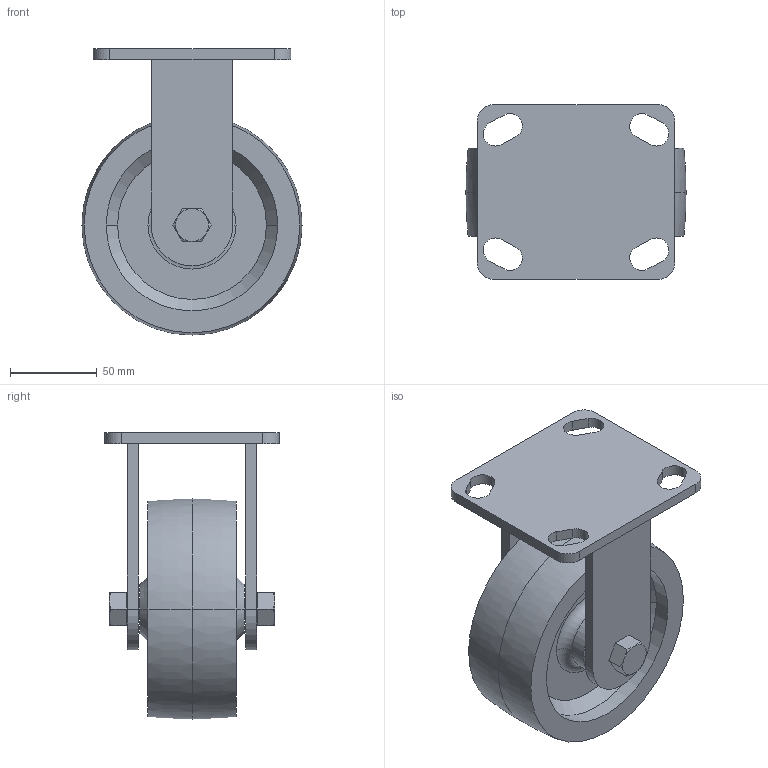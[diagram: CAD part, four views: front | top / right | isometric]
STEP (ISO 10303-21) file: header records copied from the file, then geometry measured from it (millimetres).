
FILE_DESCRIPTION (( 'STEP AP214' ), '1' );
FILE_NAME ('6.5in_800lbs_Polyurethane Rigid Caster.STEP', '2025-06-10T17:24:34', ( '' ), ( '' ), 'SwSTEP 2.0', 'SolidWorks 2023', '' );
FILE_SCHEMA (( 'AUTOMOTIVE_DESIGN' ));
Length unit declared in the file: inch
Products named in the file (1): 6.5in_800lbs_Polyurethane Rigid Caster
Bounding box: 127 x 100.71 x 165.1 mm (x, y, z)
Volume: 589340.5 mm3; surface area: 135445.8 mm2
Topology: 5 solids, 5 shells, 112 faces, 258 edges, 164 vertices
Faces by surface type: plane 48, cylinder 36, cone 20, torus 8
Entity records: 3377 total; most frequent: CARTESIAN_POINT 679, DIRECTION 572, ORIENTED_EDGE 516, EDGE_CURVE 258, AXIS2_PLACEMENT_3D 225, VERTEX_POINT 164, EDGE_LOOP 134, VECTOR 122
